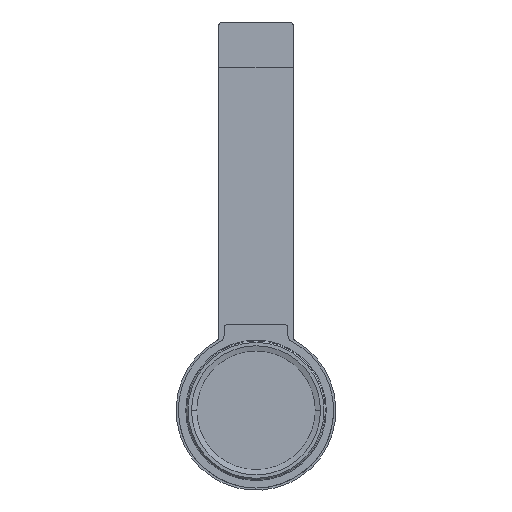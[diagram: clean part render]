
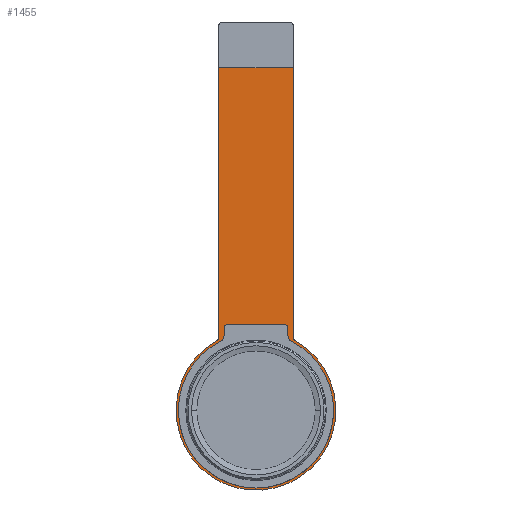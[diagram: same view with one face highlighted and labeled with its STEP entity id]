
A CAD part, front view. The second image highlights one B-rep face of the part: STEP entity #1455.
In plain terms, the highlighted planar face has unit normal (0, -1, 0).
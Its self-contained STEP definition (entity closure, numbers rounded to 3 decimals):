
#21=CARTESIAN_POINT('',(3.024,0.,33.443));
#22=DIRECTION('',(0.,-1.,0.));
#23=DIRECTION('',(1.,0.,0.));
#24=AXIS2_PLACEMENT_3D('',#21,#22,#23);
#30=CARTESIAN_POINT('',(-2.876,0.,33.443));
#31=DIRECTION('',(0.,-1.,0.));
#32=DIRECTION('',(0.,0.,1.));
#33=AXIS2_PLACEMENT_3D('',#30,#31,#32);
#38=DIRECTION('',(1.,0.,0.));
#39=VECTOR('',#38,5.9);
#40=CARTESIAN_POINT('',(-2.876,0.,33.743));
#41=LINE('',#40,#39);
#409=DIRECTION('',(0.,0.,-1.));
#410=VECTOR('',#409,27.263);
#411=CARTESIAN_POINT('',(-3.176,0.,33.443));
#412=LINE('',#411,#410);
#430=CARTESIAN_POINT('',(-3.576,0.,6.18));
#431=DIRECTION('',(0.,1.,0.));
#432=DIRECTION('',(1.,0.,0.));
#433=AXIS2_PLACEMENT_3D('',#430,#431,#432);
#468=CARTESIAN_POINT('',(0.074,0.,-0.257));
#469=DIRECTION('',(0.,-1.,0.));
#470=DIRECTION('',(-0.493,0.,0.87));
#471=AXIS2_PLACEMENT_3D('',#468,#469,#470);
#476=CARTESIAN_POINT('',(3.724,0.,6.18));
#477=DIRECTION('',(0.,1.,0.));
#478=DIRECTION('',(-0.493,0.,-0.87));
#479=AXIS2_PLACEMENT_3D('',#476,#477,#478);
#513=DIRECTION('',(0.,0.,1.));
#514=VECTOR('',#513,27.263);
#515=CARTESIAN_POINT('',(3.324,0.,6.18));
#516=LINE('',#515,#514);
#1208=CARTESIAN_POINT('',(-3.176,0.,6.18));
#1210=VERTEX_POINT('',#1208);
#1212=CARTESIAN_POINT('',(-3.379,0.,5.832));
#1214=VERTEX_POINT('',#1212);
#1216=CARTESIAN_POINT('',(3.527,0.,5.832));
#1218=VERTEX_POINT('',#1216);
#1220=CARTESIAN_POINT('',(3.324,0.,6.18));
#1222=VERTEX_POINT('',#1220);
#1416=CARTESIAN_POINT('',(3.324,0.,33.443));
#1417=CARTESIAN_POINT('',(3.024,0.,33.743));
#1418=VERTEX_POINT('',#1416);
#1419=VERTEX_POINT('',#1417);
#1424=CARTESIAN_POINT('',(-2.876,0.,33.743));
#1425=CARTESIAN_POINT('',(-3.176,0.,33.443));
#1426=VERTEX_POINT('',#1424);
#1427=VERTEX_POINT('',#1425);
#1432=CARTESIAN_POINT('',(0.,0.,0.));
#1433=DIRECTION('',(0.,1.,0.));
#1434=DIRECTION('',(1.,0.,0.));
#1435=AXIS2_PLACEMENT_3D('',#1432,#1433,#1434);
#1436=PLANE('',#1435);
#1438=ORIENTED_EDGE('',*,*,#1437,.F.);
#1440=ORIENTED_EDGE('',*,*,#1439,.F.);
#1442=ORIENTED_EDGE('',*,*,#1441,.F.);
#1444=ORIENTED_EDGE('',*,*,#1443,.F.);
#1446=ORIENTED_EDGE('',*,*,#1445,.F.);
#1448=ORIENTED_EDGE('',*,*,#1447,.F.);
#1450=ORIENTED_EDGE('',*,*,#1449,.F.);
#1452=ORIENTED_EDGE('',*,*,#1451,.T.);
#1453=EDGE_LOOP('',(#1438,#1440,#1442,#1444,#1446,#1448,#1450,#1452));
#1454=FACE_OUTER_BOUND('',#1453,.F.);
#1455=ADVANCED_FACE('',(#1454),#1436,.F.);
#25=CIRCLE('',#24,0.3);
#34=CIRCLE('',#33,0.3);
#434=CIRCLE('',#433,0.4);
#472=CIRCLE('',#471,7.);
#480=CIRCLE('',#479,0.4);
#1437=EDGE_CURVE('',#1418,#1419,#25,.T.);
#1439=EDGE_CURVE('',#1222,#1418,#516,.T.);
#1441=EDGE_CURVE('',#1218,#1222,#480,.T.);
#1443=EDGE_CURVE('',#1214,#1218,#472,.T.);
#1445=EDGE_CURVE('',#1210,#1214,#434,.T.);
#1447=EDGE_CURVE('',#1427,#1210,#412,.T.);
#1449=EDGE_CURVE('',#1426,#1427,#34,.T.);
#1451=EDGE_CURVE('',#1426,#1419,#41,.T.);
